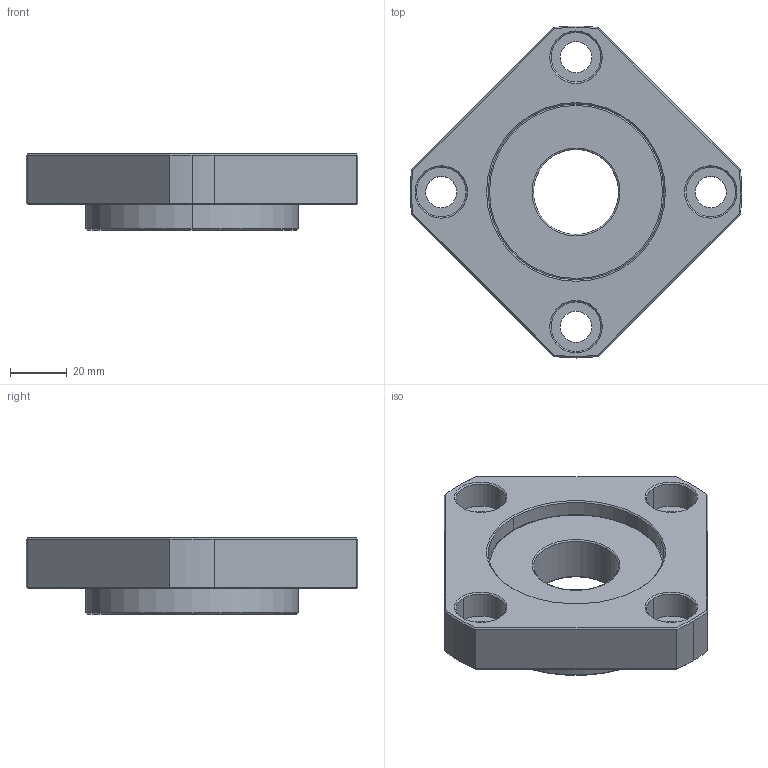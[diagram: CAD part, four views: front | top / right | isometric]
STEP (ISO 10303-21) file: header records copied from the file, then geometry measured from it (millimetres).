
FILE_DESCRIPTION (( 'STEP AP203' ), '1' );
FILE_NAME ('FSGF-30_203.STEP', '2013-02-28T00:10:37', ( '' ), ( '' ), 'SwSTEP 2.0', 'SolidWorks 2012', '' );
FILE_SCHEMA (( 'CONFIG_CONTROL_DESIGN' ));
Length unit declared in the file: millimetre
Products named in the file (1): FSGF-30_203
Bounding box: 116.88 x 117 x 27 mm (x, y, z)
Volume: 134067.2 mm3; surface area: 29810.2 mm2
Topology: 1 solids, 1 shells, 82 faces, 186 edges, 113 vertices
Faces by surface type: cylinder 29, cone 24, plane 21, torus 8
Entity records: 2424 total; most frequent: DIRECTION 441, CARTESIAN_POINT 430, ORIENTED_EDGE 372, AXIS2_PLACEMENT_3D 188, EDGE_CURVE 186, VERTEX_POINT 113, CIRCLE 105, EDGE_LOOP 99
